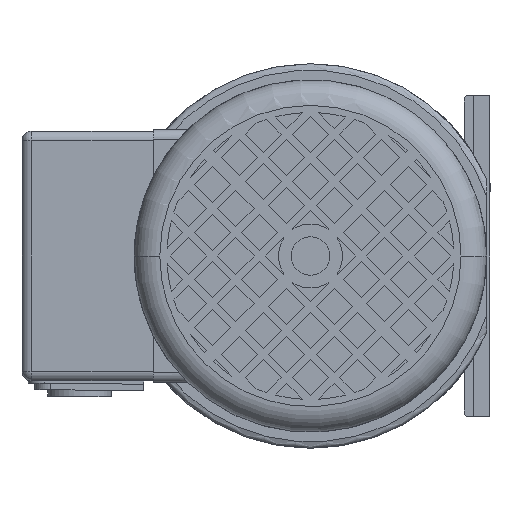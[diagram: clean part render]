
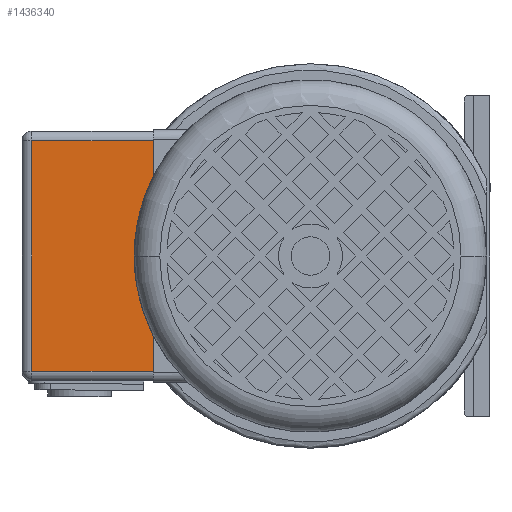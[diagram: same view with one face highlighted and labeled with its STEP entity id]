
A CAD part, left-side view. The second image highlights one B-rep face of the part: STEP entity #1436340.
In plain terms, the highlighted planar face has unit normal (-1, 0, 0) as drawn and (0, 0, -1) by its records, which use the part's own axes.
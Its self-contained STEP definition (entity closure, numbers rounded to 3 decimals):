
#1393440=CARTESIAN_POINT('',(87.,36.,-82.));
#1393450=VERTEX_POINT('',#1393440);
#1414390=CARTESIAN_POINT('',(49.,-36.,-82.));
#1414400=VERTEX_POINT('',#1414390);
#1414430=CARTESIAN_POINT('',(49.,0.,-82.));
#1414440=DIRECTION('',(0.,1.,0.));
#1414450=VECTOR('',#1414440,1.);
#1414460=LINE('',#1414430,#1414450);
#1414470=CARTESIAN_POINT('',(49.,36.,-82.));
#1414480=VERTEX_POINT('',#1414470);
#1414490=EDGE_CURVE('',#1414400,#1414480,#1414460,.T.);
#1436060=CARTESIAN_POINT('',(49.,0.,-82.));
#1436070=DIRECTION('',(0.,0.,-1.));
#1436080=DIRECTION('',(-1.,0.,0.));
#1436090=AXIS2_PLACEMENT_3D('',#1436060,#1436070,#1436080);
#1436100=PLANE('',#1436090);
#1436110=CARTESIAN_POINT('',(87.,0.,-82.));
#1436120=DIRECTION('',(0.,-1.,0.));
#1436130=VECTOR('',#1436120,1.);
#1436140=LINE('',#1436110,#1436130);
#1436150=CARTESIAN_POINT('',(87.,-36.,-82.));
#1436160=VERTEX_POINT('',#1436150);
#1436170=EDGE_CURVE('',#1393450,#1436160,#1436140,.T.);
#1436180=ORIENTED_EDGE('',*,*,#1436170,.T.);
#1436190=CARTESIAN_POINT('',(52.,36.,-82.));
#1436200=DIRECTION('',(1.,0.,0.));
#1436210=VECTOR('',#1436200,1.);
#1436220=LINE('',#1436190,#1436210);
#1436230=EDGE_CURVE('',#1414480,#1393450,#1436220,.T.);
#1436240=ORIENTED_EDGE('',*,*,#1436230,.T.);
#1436250=ORIENTED_EDGE('',*,*,#1414490,.T.);
#1436260=CARTESIAN_POINT('',(52.,-36.,-82.));
#1436270=DIRECTION('',(1.,0.,0.));
#1436280=VECTOR('',#1436270,1.);
#1436290=LINE('',#1436260,#1436280);
#1436300=EDGE_CURVE('',#1414400,#1436160,#1436290,.T.);
#1436310=ORIENTED_EDGE('',*,*,#1436300,.F.);
#1436320=EDGE_LOOP('',(#1436310,#1436250,#1436240,#1436180));
#1436330=FACE_OUTER_BOUND('',#1436320,.T.);
#1436340=ADVANCED_FACE('',(#1436330),#1436100,.T.);
